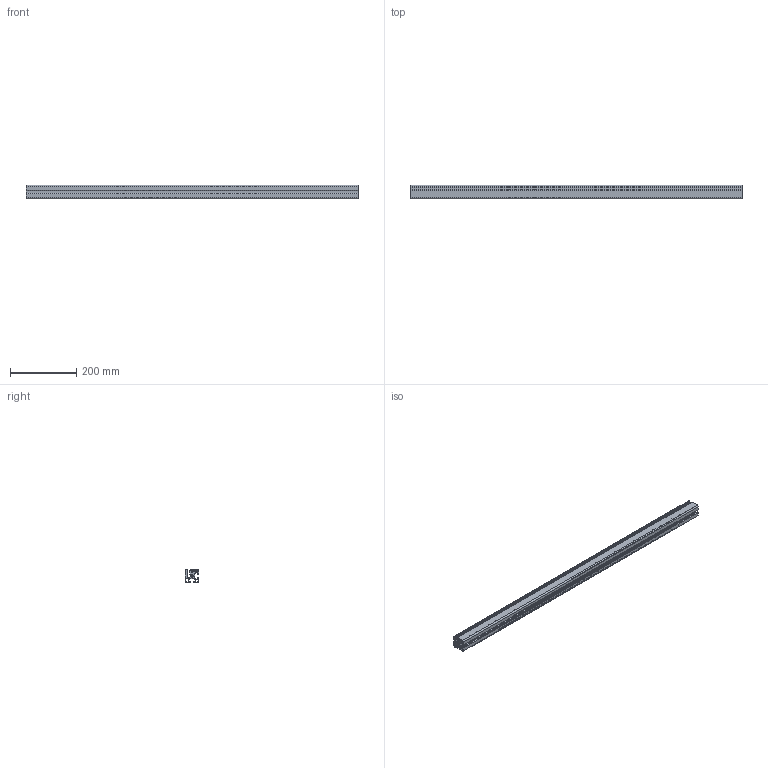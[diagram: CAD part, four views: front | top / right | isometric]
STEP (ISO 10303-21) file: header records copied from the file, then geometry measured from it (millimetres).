
FILE_DESCRIPTION (( 'STEP AP203' ), '1' );
FILE_NAME ('10268_KLE_4040.STEP', '2016-03-02T15:36:26', ( '' ), ( '' ), 'SwSTEP 2.0', 'SolidWorks 2015', '' );
FILE_SCHEMA (( 'CONFIG_CONTROL_DESIGN' ));
Length unit declared in the file: millimetre
Products named in the file (1): 10268_KLE_4040
Bounding box: 1000 x 39.94 x 39.94 mm (x, y, z)
Volume: 841467.5 mm3; surface area: 481518.4 mm2
Topology: 1 solids, 1 shells, 128 faces, 378 edges, 252 vertices
Faces by surface type: plane 65, cylinder 63
Entity records: 4401 total; most frequent: DIRECTION 762, CARTESIAN_POINT 759, ORIENTED_EDGE 756, EDGE_CURVE 378, AXIS2_PLACEMENT_3D 255, LINE 252, VECTOR 252, VERTEX_POINT 252
